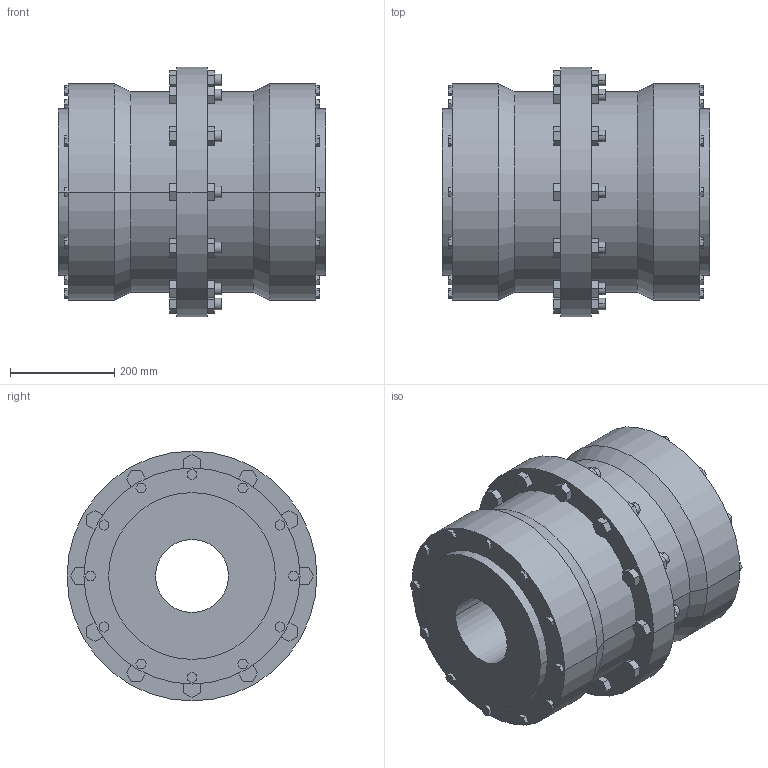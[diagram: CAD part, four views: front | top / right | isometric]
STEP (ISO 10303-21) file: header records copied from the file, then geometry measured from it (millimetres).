
FILE_DESCRIPTION((''),'2;1');
FILE_NAME('A18980700-0_ASM','2018-09-26T',('AB_Roschiwal'),('RENK AG'),'PRO/ENGINEER BY PARAMETRIC TECHNOLOGY CORPORATION, 2015440','PRO/ENGINEER BY PARAMETRIC TECHNOLOGY CORPORATION, 2015440','');
FILE_SCHEMA(('CONFIG_CONTROL_DESIGN'));
Length unit declared in the file: millimetre
Products named in the file (3): SBK200_GEHAEUSE; SBK200_NABE; A18980700-0_ASM
Assembly tree (3 placements, depth 2):
  A18980700-0_ASM
    SBK200_GEHAEUSE
    SBK200_NABE  x2
Bounding box: 514 x 480 x 480 mm (x, y, z)
Volume: 53595659.9 mm3; surface area: 2507863.8 mm2
Topology: 3 solids, 3 shells, 422 faces, 1036 edges, 688 vertices
Faces by surface type: plane 362, cylinder 56, cone 4
Entity records: 12052 total; most frequent: CARTESIAN_POINT 2100, ORIENTED_EDGE 2024, DIRECTION 1940, EDGE_CURVE 1012, VECTOR 916, LINE 916, VERTEX_POINT 672, AXIS2_PLACEMENT_3D 512
